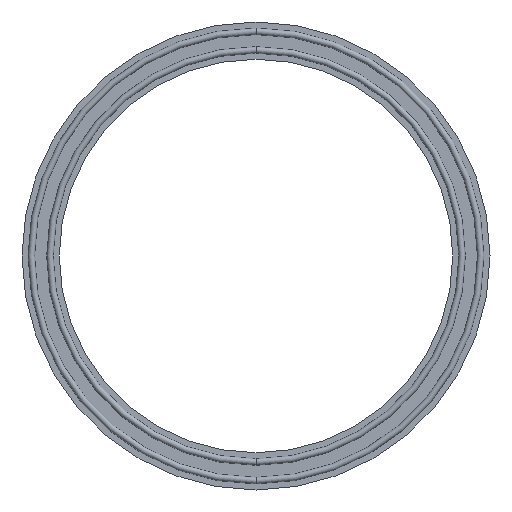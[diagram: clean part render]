
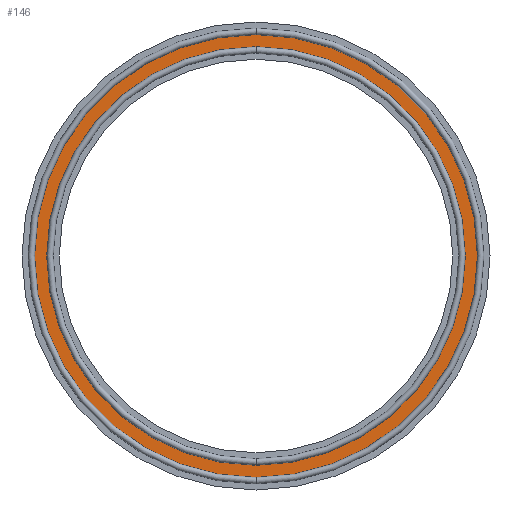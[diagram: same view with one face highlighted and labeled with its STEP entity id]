
A CAD part, front view. The second image highlights one B-rep face of the part: STEP entity #146.
In plain terms, the highlighted planar face has unit normal (0, -1, 0).
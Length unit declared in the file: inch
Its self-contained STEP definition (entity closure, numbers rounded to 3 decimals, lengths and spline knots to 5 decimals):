
#13 = CARTESIAN_POINT ( 'NONE',  ( 0., -0.02953, -1.90157 ) ) ;
#21 = AXIS2_PLACEMENT_3D ( 'NONE', #46, #114, #176 ) ;
#25 = ORIENTED_EDGE ( 'NONE', *, *, #418, .F. ) ;
#28 = DIRECTION ( 'NONE',  ( 0., 1., 0. ) ) ;
#41 = AXIS2_PLACEMENT_3D ( 'NONE', #230, #188, #268 ) ;
#46 = CARTESIAN_POINT ( 'NONE',  ( 0., -0.02953, 0. ) ) ;
#60 = VERTEX_POINT ( 'NONE', #127 ) ;
#71 = EDGE_LOOP ( 'NONE', ( #419, #89 ) ) ;
#76 = VERTEX_POINT ( 'NONE', #13 ) ;
#84 = EDGE_CURVE ( 'NONE', #60, #382, #424, .T. ) ;
#89 = ORIENTED_EDGE ( 'NONE', *, *, #227, .T. ) ;
#100 = CARTESIAN_POINT ( 'NONE',  ( 0., -0.02953, 0. ) ) ;
#101 = CARTESIAN_POINT ( 'NONE',  ( 0., -0.02953, 0. ) ) ;
#102 = CARTESIAN_POINT ( 'NONE',  ( 0., -0.02953, 0. ) ) ;
#114 = DIRECTION ( 'NONE',  ( 0., 1., 0. ) ) ;
#127 = CARTESIAN_POINT ( 'NONE',  ( 0., -0.02953, 2.01181 ) ) ;
#135 = CIRCLE ( 'NONE', #381, 1.90157 ) ;
#137 = CIRCLE ( 'NONE', #21, 1.90157 ) ;
#139 = CIRCLE ( 'NONE', #226, 2.01181 ) ;
#146 = ADVANCED_FACE ( 'NONE', ( #442, #337 ), #410, .F. ) ;
#154 = EDGE_CURVE ( 'NONE', #325, #76, #135, .T. ) ;
#176 = DIRECTION ( 'NONE',  ( 0., 0., 1. ) ) ;
#188 = DIRECTION ( 'NONE',  ( 0., 1., 0. ) ) ;
#198 = DIRECTION ( 'NONE',  ( 0., 1., 0. ) ) ;
#200 = DIRECTION ( 'NONE',  ( 0., 0., 1. ) ) ;
#226 = AXIS2_PLACEMENT_3D ( 'NONE', #100, #445, #200 ) ;
#227 = EDGE_CURVE ( 'NONE', #76, #325, #137, .T. ) ;
#230 = CARTESIAN_POINT ( 'NONE',  ( 0., -0.02953, 0. ) ) ;
#268 = DIRECTION ( 'NONE',  ( 0., 0., 1. ) ) ;
#309 = ORIENTED_EDGE ( 'NONE', *, *, #84, .F. ) ;
#325 = VERTEX_POINT ( 'NONE', #389 ) ;
#327 = AXIS2_PLACEMENT_3D ( 'NONE', #101, #28, #401 ) ;
#337 = FACE_OUTER_BOUND ( 'NONE', #444, .T. ) ;
#372 = CARTESIAN_POINT ( 'NONE',  ( 0., -0.02953, -2.01181 ) ) ;
#381 = AXIS2_PLACEMENT_3D ( 'NONE', #102, #198, #439 ) ;
#382 = VERTEX_POINT ( 'NONE', #372 ) ;
#389 = CARTESIAN_POINT ( 'NONE',  ( 0., -0.02953, 1.90157 ) ) ;
#401 = DIRECTION ( 'NONE',  ( 1., 0., 0. ) ) ;
#410 = PLANE ( 'NONE',  #327 ) ;
#418 = EDGE_CURVE ( 'NONE', #382, #60, #139, .T. ) ;
#419 = ORIENTED_EDGE ( 'NONE', *, *, #154, .T. ) ;
#424 = CIRCLE ( 'NONE', #41, 2.01181 ) ;
#439 = DIRECTION ( 'NONE',  ( 0., 0., 1. ) ) ;
#442 = FACE_BOUND ( 'NONE', #71, .T. ) ;
#444 = EDGE_LOOP ( 'NONE', ( #309, #25 ) ) ;
#445 = DIRECTION ( 'NONE',  ( 0., 1., 0. ) ) ;
